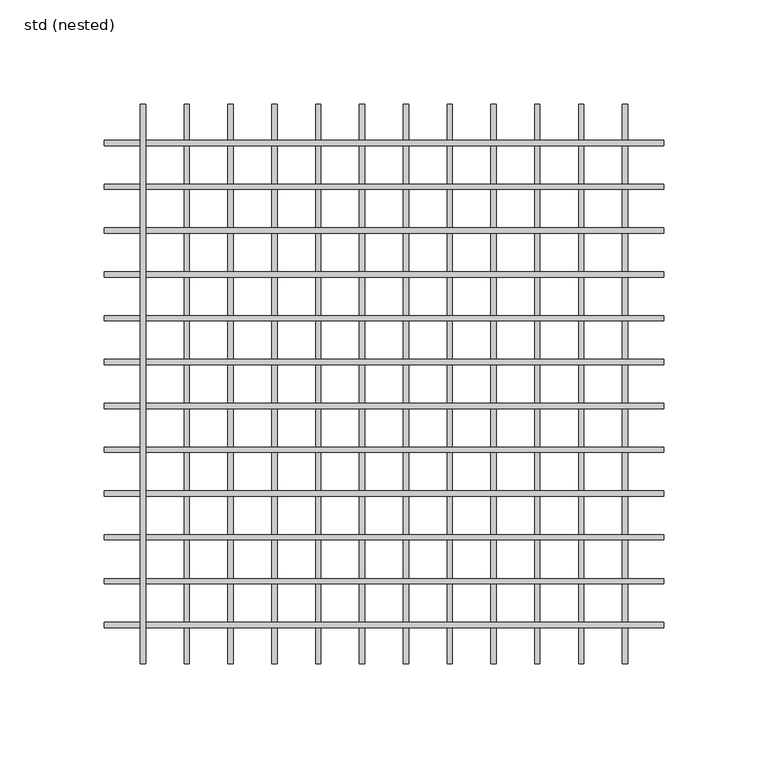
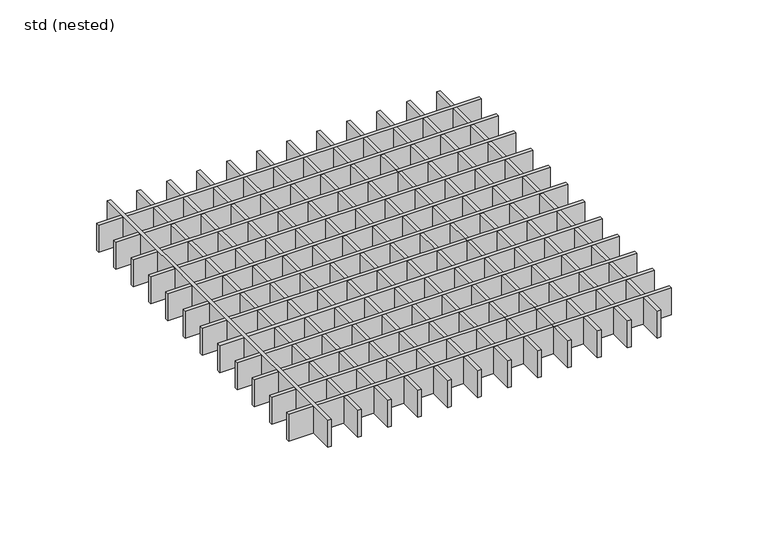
"""IFC4 building model written with IfcOpenShell, lengths in millimetres: sanitary terminal geometry, ZZZ_do not use_PF_ST_UN_square grating for hygienic gully_ACO : std (nested)."""

from ifc_helpers import new_model, si_unit, frame, origin, place, context, project, spatial, polyline, outline, extrude, source, transform, mapped, element, save


def std_nested_d3c4a1f5(model_context):
    return source(origin(), model_context, "Body", "SweptSolid", [
        extrude(outline(polyline([(-114.25, -134.0), (-116.75, -134.0), (-116.75, 134.0), (-114.25, 134.0), (-114.25, -134.0)])), frame((0.0, 0.0, -20.0), z_axis=(0.0, 0.0, 1.0), x_axis=(1.0, 0.0, 0.0)), (0.0, 0.0, 1.0), 20.0),
        extrude(outline(polyline([(-134.0, -116.75), (-134.0, -114.25), (134.0, -114.25), (134.0, -116.75), (-134.0, -116.75)])), frame((0.0, 0.0, -20.0), z_axis=(0.0, 0.0, 1.0), x_axis=(1.0, 0.0, 0.0)), (0.0, 0.0, 1.0), 20.0),
        extrude(outline(polyline([(-134.0, -95.75), (-134.0, -93.25), (134.0, -93.25), (134.0, -95.75), (-134.0, -95.75)])), frame((0.0, 0.0, -20.0), z_axis=(0.0, 0.0, 1.0), x_axis=(1.0, 0.0, 0.0)), (0.0, 0.0, 1.0), 20.0),
        extrude(outline(polyline([(-134.0, -74.75), (-134.0, -72.25), (134.0, -72.25), (134.0, -74.75), (-134.0, -74.75)])), frame((0.0, 0.0, -20.0), z_axis=(0.0, 0.0, 1.0), x_axis=(1.0, 0.0, 0.0)), (0.0, 0.0, 1.0), 20.0),
        extrude(outline(polyline([(-134.0, -53.75), (-134.0, -51.25), (134.0, -51.25), (134.0, -53.75), (-134.0, -53.75)])), frame((0.0, 0.0, -20.0), z_axis=(0.0, 0.0, 1.0), x_axis=(1.0, 0.0, 0.0)), (0.0, 0.0, 1.0), 20.0),
        extrude(outline(polyline([(-134.0, -32.75), (-134.0, -30.25), (134.0, -30.25), (134.0, -32.75), (-134.0, -32.75)])), frame((0.0, 0.0, -20.0), z_axis=(0.0, 0.0, 1.0), x_axis=(1.0, 0.0, 0.0)), (0.0, 0.0, 1.0), 20.0),
        extrude(outline(polyline([(-134.0, 114.25), (-134.0, 116.75), (134.0, 116.75), (134.0, 114.25), (-134.0, 114.25)])), frame((0.0, 0.0, -20.0), z_axis=(0.0, 0.0, 1.0), x_axis=(1.0, 0.0, 0.0)), (0.0, 0.0, 1.0), 20.0),
        extrude(outline(polyline([(-134.0, 93.25), (-134.0, 95.75), (134.0, 95.75), (134.0, 93.25), (-134.0, 93.25)])), frame((0.0, 0.0, -20.0), z_axis=(0.0, 0.0, 1.0), x_axis=(1.0, 0.0, 0.0)), (0.0, 0.0, 1.0), 20.0),
        extrude(outline(polyline([(-134.0, 72.25), (-134.0, 74.75), (134.0, 74.75), (134.0, 72.25), (-134.0, 72.25)])), frame((0.0, 0.0, -20.0), z_axis=(0.0, 0.0, 1.0), x_axis=(1.0, 0.0, 0.0)), (0.0, 0.0, 1.0), 20.0),
        extrude(outline(polyline([(-134.0, 51.25), (-134.0, 53.75), (134.0, 53.75), (134.0, 51.25), (-134.0, 51.25)])), frame((0.0, 0.0, -20.0), z_axis=(0.0, 0.0, 1.0), x_axis=(1.0, 0.0, 0.0)), (0.0, 0.0, 1.0), 20.0),
        extrude(outline(polyline([(-134.0, 30.25), (-134.0, 32.75), (134.0, 32.75), (134.0, 30.25), (-134.0, 30.25)])), frame((0.0, 0.0, -20.0), z_axis=(0.0, 0.0, 1.0), x_axis=(1.0, 0.0, 0.0)), (0.0, 0.0, 1.0), 20.0),
        extrude(outline(polyline([(-134.0, 9.25), (-134.0, 11.75), (134.0, 11.75), (134.0, 9.25), (-134.0, 9.25)])), frame((0.0, 0.0, -20.0), z_axis=(0.0, 0.0, 1.0), x_axis=(1.0, 0.0, 0.0)), (0.0, 0.0, 1.0), 20.0),
        extrude(outline(polyline([(-134.0, -11.75), (-134.0, -9.25), (134.0, -9.25), (134.0, -11.75), (-134.0, -11.75)])), frame((0.0, 0.0, -20.0), z_axis=(0.0, 0.0, 1.0), x_axis=(1.0, 0.0, 0.0)), (0.0, 0.0, 1.0), 20.0),
        extrude(outline(polyline([(116.75, -134.0), (114.25, -134.0), (114.25, 134.0), (116.75, 134.0), (116.75, -134.0)])), frame((0.0, 0.0, -20.0), z_axis=(0.0, 0.0, 1.0), x_axis=(1.0, 0.0, 0.0)), (0.0, 0.0, 1.0), 20.0),
        extrude(outline(polyline([(-93.25, -134.0), (-95.75, -134.0), (-95.75, 134.0), (-93.25, 134.0), (-93.25, -134.0)])), frame((0.0, 0.0, -20.0), z_axis=(0.0, 0.0, 1.0), x_axis=(1.0, 0.0, 0.0)), (0.0, 0.0, 1.0), 20.0),
        extrude(outline(polyline([(-72.25, -134.0), (-74.75, -134.0), (-74.75, 134.0), (-72.25, 134.0), (-72.25, -134.0)])), frame((0.0, 0.0, -20.0), z_axis=(0.0, 0.0, 1.0), x_axis=(1.0, 0.0, 0.0)), (0.0, 0.0, 1.0), 20.0),
        extrude(outline(polyline([(-51.25, -134.0), (-53.75, -134.0), (-53.75, 134.0), (-51.25, 134.0), (-51.25, -134.0)])), frame((0.0, 0.0, -20.0), z_axis=(0.0, 0.0, 1.0), x_axis=(1.0, 0.0, 0.0)), (0.0, 0.0, 1.0), 20.0),
        extrude(outline(polyline([(-30.25, -134.0), (-32.75, -134.0), (-32.75, 134.0), (-30.25, 134.0), (-30.25, -134.0)])), frame((0.0, 0.0, -20.0), z_axis=(0.0, 0.0, 1.0), x_axis=(1.0, 0.0, 0.0)), (0.0, 0.0, 1.0), 20.0),
        extrude(outline(polyline([(95.75, -134.0), (93.25, -134.0), (93.25, 134.0), (95.75, 134.0), (95.75, -134.0)])), frame((0.0, 0.0, -20.0), z_axis=(0.0, 0.0, 1.0), x_axis=(1.0, 0.0, 0.0)), (0.0, 0.0, 1.0), 20.0),
        extrude(outline(polyline([(74.75, -134.0), (72.25, -134.0), (72.25, 134.0), (74.75, 134.0), (74.75, -134.0)])), frame((0.0, 0.0, -20.0), z_axis=(0.0, 0.0, 1.0), x_axis=(1.0, 0.0, 0.0)), (0.0, 0.0, 1.0), 20.0),
        extrude(outline(polyline([(53.75, -134.0), (51.25, -134.0), (51.25, 134.0), (53.75, 134.0), (53.75, -134.0)])), frame((0.0, 0.0, -20.0), z_axis=(0.0, 0.0, 1.0), x_axis=(1.0, 0.0, 0.0)), (0.0, 0.0, 1.0), 20.0),
        extrude(outline(polyline([(32.75, -134.0), (30.25, -134.0), (30.25, 134.0), (32.75, 134.0), (32.75, -134.0)])), frame((0.0, 0.0, -20.0), z_axis=(0.0, 0.0, 1.0), x_axis=(1.0, 0.0, 0.0)), (0.0, 0.0, 1.0), 20.0),
        extrude(outline(polyline([(-9.25, -134.0), (-11.75, -134.0), (-11.75, 134.0), (-9.25, 134.0), (-9.25, -134.0)])), frame((0.0, 0.0, -20.0), z_axis=(0.0, 0.0, 1.0), x_axis=(1.0, 0.0, 0.0)), (0.0, 0.0, 1.0), 20.0),
        extrude(outline(polyline([(11.75, -134.0), (9.25, -134.0), (9.25, 134.0), (11.75, 134.0), (11.75, -134.0)])), frame((0.0, 0.0, -20.0), z_axis=(0.0, 0.0, 1.0), x_axis=(1.0, 0.0, 0.0)), (0.0, 0.0, 1.0), 20.0),
    ])


if __name__ == "__main__":
    model = new_model("IFC4")
    model_context = context("Model", 3, world=origin())
    ifc_project = project(units=[si_unit("LENGTHUNIT", "METRE", prefix="MILLI")], contexts=[model_context])
    site = spatial("IfcSite", under=ifc_project)
    building = spatial("IfcBuilding", under=site)
    placement = place(None, origin())
    std_nested_shape = std_nested_d3c4a1f5(model_context)
    element("IfcSanitaryTerminal", 1, ObjectType="ZZZ_do not use_PF_ST_UN_square grating for hygienic gully_ACO : std (nested)", at=placement, inside=building, context=model_context, shape_type="MappedRepresentation", body=[
        mapped(std_nested_shape, transform((0.0, 0.0, 0.0), x_axis=(1.0, 0.0, 0.0), y_axis=(0.0, 1.0, 0.0), z_axis=(0.0, 0.0, 1.0))),
    ])
    save(model, "model.ifc")
